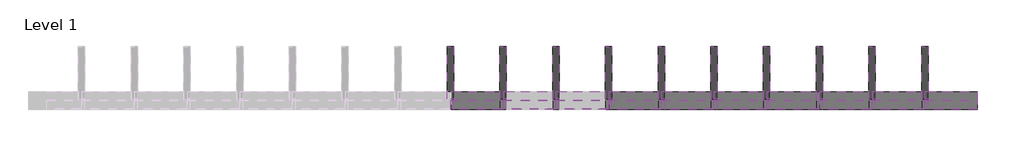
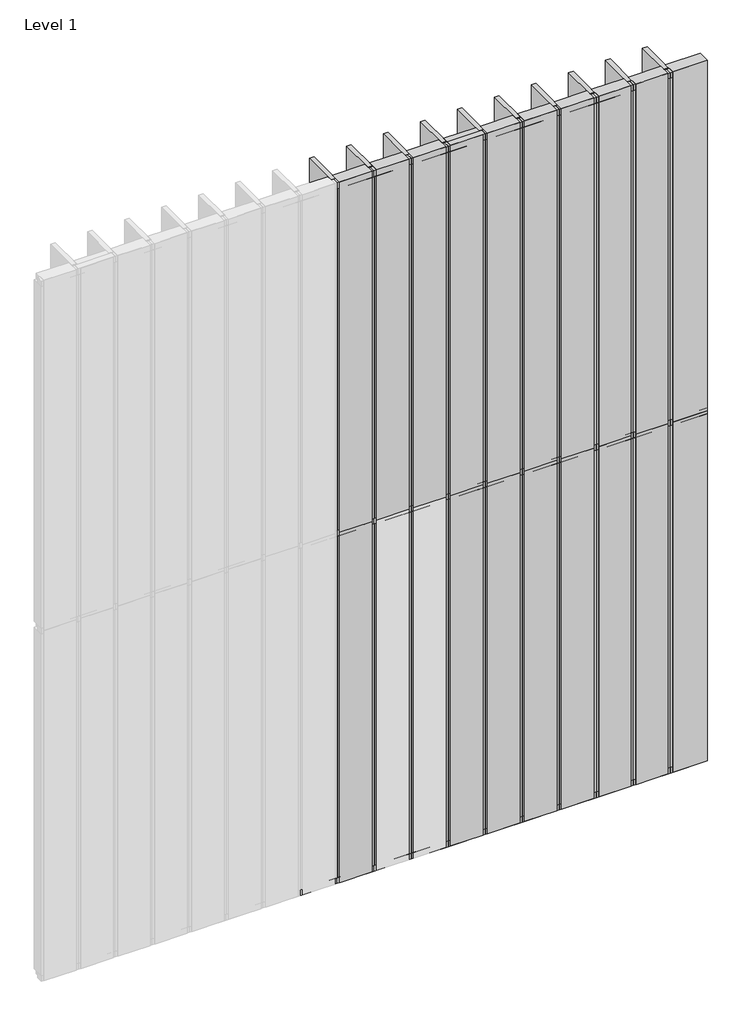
# One storey, part 2 of 2: 51 members, 38 plates.
"""IFC4 building model written with IfcOpenShell, lengths in millimetres."""

from ifc_helpers import new_model, si_unit, origin, place, context, project, spatial, transform, mapped, element, save
from components import rectangular_mullion_3524faa0, rectangular_mullion_d9db7a7c, rectangular_mullion_bcb65166, rectangular_mullion_906318ec, empty_system_panel_empty_ba3b3bea, empty_system_panel_empty_1e353cd9, empty_system_panel_empty_eacbfc0b

model = new_model("IFC4")

# Units and contexts
model_context = context("Model", 3, world=origin())
ifc_project = project(units=[si_unit("LENGTHUNIT", "METRE", prefix="MILLI")], contexts=[model_context])

# Site, building, storey
site = spatial("IfcSite", under=ifc_project)
building = spatial("IfcBuilding", under=site)
storey = spatial("IfcBuildingStorey", under=building, Name="Level 1", Elevation=0.0)

# Members
placement = place(None, origin())
rectangular_mullion_shape = rectangular_mullion_3524faa0(model_context)
element("IfcMember", 1, ObjectType="Rectangular Mullion : RSen_21_CWM_blade - cubic 300 - 0°_gen_duco projects", at=placement, inside=storey, context=model_context, shape_type="MappedRepresentation", body=[
    mapped(rectangular_mullion_shape, transform((5700.0, 3000.0, 0.0), x_axis=(-1.0, 0.0, 0.0), y_axis=(0.0, 1.0, 0.0), z_axis=(0.0, 0.0, -1.0))),
])
element("IfcMember", 2, ObjectType="Rectangular Mullion : RSen_21_CWM_blade - cubic 300 - 0°_gen_duco projects", at=placement, inside=storey, context=model_context, shape_type="MappedRepresentation", body=[
    mapped(rectangular_mullion_shape, transform((5400.0, 3000.0, 0.0), x_axis=(-1.0, 0.0, 0.0), y_axis=(0.0, 1.0, 0.0), z_axis=(0.0, 0.0, -1.0))),
])
element("IfcMember", 3, ObjectType="Rectangular Mullion : RSen_21_CWM_blade - cubic 300 - 0°_gen_duco projects", at=placement, inside=storey, context=model_context, shape_type="MappedRepresentation", body=[
    mapped(rectangular_mullion_shape, transform((5100.0, 3000.0, 0.0), x_axis=(-1.0, 0.0, 0.0), y_axis=(0.0, 1.0, 0.0), z_axis=(0.0, 0.0, -1.0))),
])
element("IfcMember", 4, ObjectType="Rectangular Mullion : RSen_21_CWM_blade - cubic 300 - 0°_gen_duco projects", at=placement, inside=storey, context=model_context, shape_type="MappedRepresentation", body=[
    mapped(rectangular_mullion_shape, transform((4800.0, 3000.0, 0.0), x_axis=(-1.0, 0.0, 0.0), y_axis=(0.0, 1.0, 0.0), z_axis=(0.0, 0.0, -1.0))),
])
element("IfcMember", 5, ObjectType="Rectangular Mullion : RSen_21_CWM_blade - cubic 300 - 0°_gen_duco projects", at=placement, inside=storey, context=model_context, shape_type="MappedRepresentation", body=[
    mapped(rectangular_mullion_shape, transform((4500.0, 3000.0, 0.0), x_axis=(-1.0, 0.0, 0.0), y_axis=(0.0, 1.0, 0.0), z_axis=(0.0, 0.0, -1.0))),
])
element("IfcMember", 6, ObjectType="Rectangular Mullion : RSen_21_CWM_blade - cubic 300 - 0°_gen_duco projects", at=placement, inside=storey, context=model_context, shape_type="MappedRepresentation", body=[
    mapped(rectangular_mullion_shape, transform((4200.0, 3000.0, 0.0), x_axis=(-1.0, 0.0, 0.0), y_axis=(0.0, 1.0, 0.0), z_axis=(0.0, 0.0, -1.0))),
])
element("IfcMember", 7, ObjectType="Rectangular Mullion : RSen_21_CWM_blade - cubic 300 - 0°_gen_duco projects", at=placement, inside=storey, context=model_context, shape_type="MappedRepresentation", body=[
    mapped(rectangular_mullion_shape, transform((3900.0, 3000.0, 0.0), x_axis=(-1.0, 0.0, 0.0), y_axis=(0.0, 1.0, 0.0), z_axis=(0.0, 0.0, -1.0))),
])
element("IfcMember", 8, ObjectType="Rectangular Mullion : RSen_21_CWM_blade - cubic 300 - 0°_gen_duco projects", at=placement, inside=storey, context=model_context, shape_type="MappedRepresentation", body=[
    mapped(rectangular_mullion_shape, transform((3600.0, 3000.0, 0.0), x_axis=(-1.0, 0.0, 0.0), y_axis=(0.0, 1.0, 0.0), z_axis=(0.0, 0.0, -1.0))),
])
element("IfcMember", 9, ObjectType="Rectangular Mullion : RSen_21_CWM_blade - cubic 300 - 0°_gen_duco projects", at=placement, inside=storey, context=model_context, shape_type="MappedRepresentation", body=[
    mapped(rectangular_mullion_shape, transform((3300.0, 3000.0, 0.0), x_axis=(-1.0, 0.0, 0.0), y_axis=(0.0, 1.0, 0.0), z_axis=(0.0, 0.0, -1.0))),
])
element("IfcMember", 10, ObjectType="Rectangular Mullion : RSen_21_CWM_blade - cubic 300 - 0°_gen_duco projects", at=placement, inside=storey, context=model_context, shape_type="MappedRepresentation", body=[
    mapped(rectangular_mullion_shape, transform((3000.0, 3000.0, 0.0), x_axis=(-1.0, 0.0, 0.0), y_axis=(0.0, 1.0, 0.0), z_axis=(0.0, 0.0, -1.0))),
])
element("IfcMember", 11, ObjectType="Rectangular Mullion : RSen_21_CWM_blade - cubic 300 - 0°_gen_duco projects", at=placement, inside=storey, context=model_context, shape_type="MappedRepresentation", body=[
    mapped(rectangular_mullion_shape, transform((5700.0, 3000.0, 3000.0), x_axis=(-1.0, 0.0, 0.0), y_axis=(0.0, 1.0, 0.0), z_axis=(0.0, 0.0, -1.0))),
])
element("IfcMember", 12, ObjectType="Rectangular Mullion : RSen_21_CWM_blade - cubic 300 - 0°_gen_duco projects", at=placement, inside=storey, context=model_context, shape_type="MappedRepresentation", body=[
    mapped(rectangular_mullion_shape, transform((5400.0, 3000.0, 3000.0), x_axis=(-1.0, 0.0, 0.0), y_axis=(0.0, 1.0, 0.0), z_axis=(0.0, 0.0, -1.0))),
])
element("IfcMember", 13, ObjectType="Rectangular Mullion : RSen_21_CWM_blade - cubic 300 - 0°_gen_duco projects", at=placement, inside=storey, context=model_context, shape_type="MappedRepresentation", body=[
    mapped(rectangular_mullion_shape, transform((5100.0, 3000.0, 3000.0), x_axis=(-1.0, 0.0, 0.0), y_axis=(0.0, 1.0, 0.0), z_axis=(0.0, 0.0, -1.0))),
])
element("IfcMember", 14, ObjectType="Rectangular Mullion : RSen_21_CWM_blade - cubic 300 - 0°_gen_duco projects", at=placement, inside=storey, context=model_context, shape_type="MappedRepresentation", body=[
    mapped(rectangular_mullion_shape, transform((4800.0, 3000.0, 3000.0), x_axis=(-1.0, 0.0, 0.0), y_axis=(0.0, 1.0, 0.0), z_axis=(0.0, 0.0, -1.0))),
])
element("IfcMember", 15, ObjectType="Rectangular Mullion : RSen_21_CWM_blade - cubic 300 - 0°_gen_duco projects", at=placement, inside=storey, context=model_context, shape_type="MappedRepresentation", body=[
    mapped(rectangular_mullion_shape, transform((4500.0, 3000.0, 3000.0), x_axis=(-1.0, 0.0, 0.0), y_axis=(0.0, 1.0, 0.0), z_axis=(0.0, 0.0, -1.0))),
])
element("IfcMember", 16, ObjectType="Rectangular Mullion : RSen_21_CWM_blade - cubic 300 - 0°_gen_duco projects", at=placement, inside=storey, context=model_context, shape_type="MappedRepresentation", body=[
    mapped(rectangular_mullion_shape, transform((4200.0, 3000.0, 3000.0), x_axis=(-1.0, 0.0, 0.0), y_axis=(0.0, 1.0, 0.0), z_axis=(0.0, 0.0, -1.0))),
])
element("IfcMember", 17, ObjectType="Rectangular Mullion : RSen_21_CWM_blade - cubic 300 - 0°_gen_duco projects", at=placement, inside=storey, context=model_context, shape_type="MappedRepresentation", body=[
    mapped(rectangular_mullion_shape, transform((3900.0, 3000.0, 3000.0), x_axis=(-1.0, 0.0, 0.0), y_axis=(0.0, 1.0, 0.0), z_axis=(0.0, 0.0, -1.0))),
])
element("IfcMember", 18, ObjectType="Rectangular Mullion : RSen_21_CWM_blade - cubic 300 - 0°_gen_duco projects", at=placement, inside=storey, context=model_context, shape_type="MappedRepresentation", body=[
    mapped(rectangular_mullion_shape, transform((3600.0, 3000.0, 3000.0), x_axis=(-1.0, 0.0, 0.0), y_axis=(0.0, 1.0, 0.0), z_axis=(0.0, 0.0, -1.0))),
])
element("IfcMember", 19, ObjectType="Rectangular Mullion : RSen_21_CWM_blade - cubic 300 - 0°_gen_duco projects", at=placement, inside=storey, context=model_context, shape_type="MappedRepresentation", body=[
    mapped(rectangular_mullion_shape, transform((3300.0, 3000.0, 3000.0), x_axis=(-1.0, 0.0, 0.0), y_axis=(0.0, 1.0, 0.0), z_axis=(0.0, 0.0, -1.0))),
])
element("IfcMember", 20, ObjectType="Rectangular Mullion : RSen_21_CWM_blade - cubic 300 - 0°_gen_duco projects", at=placement, inside=storey, context=model_context, shape_type="MappedRepresentation", body=[
    mapped(rectangular_mullion_shape, transform((3000.0, 3000.0, 3000.0), x_axis=(-1.0, 0.0, 0.0), y_axis=(0.0, 1.0, 0.0), z_axis=(0.0, 0.0, -1.0))),
])
rectangular_mullion_2_shape = rectangular_mullion_d9db7a7c(model_context)
element("IfcMember", 21, ObjectType="Rectangular Mullion : RSen_21_CWM_support profile 50x50 - right_gen_duco projects", at=placement, inside=storey, context=model_context, shape_type="MappedRepresentation", body=[
    mapped(rectangular_mullion_2_shape, transform((6000.0, 3000.0, 0.0), x_axis=(0.0, 0.0, -1.0), y_axis=(0.0, 1.0, 0.0), z_axis=(1.0, 0.0, 0.0))),
])
rectangular_mullion_3_shape = rectangular_mullion_bcb65166(model_context)
element("IfcMember", 22, ObjectType="Rectangular Mullion : RSen_21_CWM_support profile 50x50 - left_gen_duco projects", at=placement, inside=storey, context=model_context, shape_type="MappedRepresentation", body=[
    mapped(rectangular_mullion_3_shape, transform((5700.0, 3000.0, 6000.0), x_axis=(0.0, 0.0, 1.0), y_axis=(0.0, 1.0, 0.0), z_axis=(-1.0, 0.0, 0.0))),
])
element("IfcMember", 23, ObjectType="Rectangular Mullion : RSen_21_CWM_support profile 50x50 - left_gen_duco projects", at=placement, inside=storey, context=model_context, shape_type="MappedRepresentation", body=[
    mapped(rectangular_mullion_3_shape, transform((5400.0, 3000.0, 6000.0), x_axis=(0.0, 0.0, 1.0), y_axis=(0.0, 1.0, 0.0), z_axis=(-1.0, 0.0, 0.0))),
])
element("IfcMember", 24, ObjectType="Rectangular Mullion : RSen_21_CWM_support profile 50x50 - left_gen_duco projects", at=placement, inside=storey, context=model_context, shape_type="MappedRepresentation", body=[
    mapped(rectangular_mullion_3_shape, transform((5100.0, 3000.0, 6000.0), x_axis=(0.0, 0.0, 1.0), y_axis=(0.0, 1.0, 0.0), z_axis=(-1.0, 0.0, 0.0))),
])
element("IfcMember", 25, ObjectType="Rectangular Mullion : RSen_21_CWM_support profile 50x50 - left_gen_duco projects", at=placement, inside=storey, context=model_context, shape_type="MappedRepresentation", body=[
    mapped(rectangular_mullion_3_shape, transform((4800.0, 3000.0, 6000.0), x_axis=(0.0, 0.0, 1.0), y_axis=(0.0, 1.0, 0.0), z_axis=(-1.0, 0.0, 0.0))),
])
element("IfcMember", 26, ObjectType="Rectangular Mullion : RSen_21_CWM_support profile 50x50 - left_gen_duco projects", at=placement, inside=storey, context=model_context, shape_type="MappedRepresentation", body=[
    mapped(rectangular_mullion_3_shape, transform((4500.0, 3000.0, 6000.0), x_axis=(0.0, 0.0, 1.0), y_axis=(0.0, 1.0, 0.0), z_axis=(-1.0, 0.0, 0.0))),
])
element("IfcMember", 27, ObjectType="Rectangular Mullion : RSen_21_CWM_support profile 50x50 - left_gen_duco projects", at=placement, inside=storey, context=model_context, shape_type="MappedRepresentation", body=[
    mapped(rectangular_mullion_3_shape, transform((4200.0, 3000.0, 6000.0), x_axis=(0.0, 0.0, 1.0), y_axis=(0.0, 1.0, 0.0), z_axis=(-1.0, 0.0, 0.0))),
])
element("IfcMember", 28, ObjectType="Rectangular Mullion : RSen_21_CWM_support profile 50x50 - left_gen_duco projects", at=placement, inside=storey, context=model_context, shape_type="MappedRepresentation", body=[
    mapped(rectangular_mullion_3_shape, transform((3900.0, 3000.0, 6000.0), x_axis=(0.0, 0.0, 1.0), y_axis=(0.0, 1.0, 0.0), z_axis=(-1.0, 0.0, 0.0))),
])
element("IfcMember", 29, ObjectType="Rectangular Mullion : RSen_21_CWM_support profile 50x50 - left_gen_duco projects", at=placement, inside=storey, context=model_context, shape_type="MappedRepresentation", body=[
    mapped(rectangular_mullion_3_shape, transform((3600.0, 3000.0, 6000.0), x_axis=(0.0, 0.0, 1.0), y_axis=(0.0, 1.0, 0.0), z_axis=(-1.0, 0.0, 0.0))),
])
element("IfcMember", 30, ObjectType="Rectangular Mullion : RSen_21_CWM_support profile 50x50 - left_gen_duco projects", at=placement, inside=storey, context=model_context, shape_type="MappedRepresentation", body=[
    mapped(rectangular_mullion_3_shape, transform((3300.0, 3000.0, 6000.0), x_axis=(0.0, 0.0, 1.0), y_axis=(0.0, 1.0, 0.0), z_axis=(-1.0, 0.0, 0.0))),
])
element("IfcMember", 31, ObjectType="Rectangular Mullion : RSen_21_CWM_support profile 50x50 - left_gen_duco projects", at=placement, inside=storey, context=model_context, shape_type="MappedRepresentation", body=[
    mapped(rectangular_mullion_3_shape, transform((3000.0, 3000.0, 6000.0), x_axis=(0.0, 0.0, 1.0), y_axis=(0.0, 1.0, 0.0), z_axis=(-1.0, 0.0, 0.0))),
])
element("IfcMember", 32, ObjectType="Rectangular Mullion : RSen_21_CWM_support profile 50x50 - right_gen_duco projects", at=placement, inside=storey, context=model_context, shape_type="MappedRepresentation", body=[
    mapped(rectangular_mullion_2_shape, transform((5700.0, 3000.0, 0.0), x_axis=(0.0, 0.0, -1.0), y_axis=(0.0, 1.0, 0.0), z_axis=(1.0, 0.0, 0.0))),
])
element("IfcMember", 33, ObjectType="Rectangular Mullion : RSen_21_CWM_support profile 50x50 - right_gen_duco projects", at=placement, inside=storey, context=model_context, shape_type="MappedRepresentation", body=[
    mapped(rectangular_mullion_2_shape, transform((5400.0, 3000.0, 0.0), x_axis=(0.0, 0.0, -1.0), y_axis=(0.0, 1.0, 0.0), z_axis=(1.0, 0.0, 0.0))),
])
element("IfcMember", 34, ObjectType="Rectangular Mullion : RSen_21_CWM_support profile 50x50 - right_gen_duco projects", at=placement, inside=storey, context=model_context, shape_type="MappedRepresentation", body=[
    mapped(rectangular_mullion_2_shape, transform((5100.0, 3000.0, 0.0), x_axis=(0.0, 0.0, -1.0), y_axis=(0.0, 1.0, 0.0), z_axis=(1.0, 0.0, 0.0))),
])
element("IfcMember", 35, ObjectType="Rectangular Mullion : RSen_21_CWM_support profile 50x50 - right_gen_duco projects", at=placement, inside=storey, context=model_context, shape_type="MappedRepresentation", body=[
    mapped(rectangular_mullion_2_shape, transform((4800.0, 3000.0, 0.0), x_axis=(0.0, 0.0, -1.0), y_axis=(0.0, 1.0, 0.0), z_axis=(1.0, 0.0, 0.0))),
])
element("IfcMember", 36, ObjectType="Rectangular Mullion : RSen_21_CWM_support profile 50x50 - right_gen_duco projects", at=placement, inside=storey, context=model_context, shape_type="MappedRepresentation", body=[
    mapped(rectangular_mullion_2_shape, transform((4500.0, 3000.0, 0.0), x_axis=(0.0, 0.0, -1.0), y_axis=(0.0, 1.0, 0.0), z_axis=(1.0, 0.0, 0.0))),
])
element("IfcMember", 37, ObjectType="Rectangular Mullion : RSen_21_CWM_support profile 50x50 - right_gen_duco projects", at=placement, inside=storey, context=model_context, shape_type="MappedRepresentation", body=[
    mapped(rectangular_mullion_2_shape, transform((4200.0, 3000.0, 0.0), x_axis=(0.0, 0.0, -1.0), y_axis=(0.0, 1.0, 0.0), z_axis=(1.0, 0.0, 0.0))),
])
element("IfcMember", 38, ObjectType="Rectangular Mullion : RSen_21_CWM_support profile 50x50 - right_gen_duco projects", at=placement, inside=storey, context=model_context, shape_type="MappedRepresentation", body=[
    mapped(rectangular_mullion_2_shape, transform((3900.0, 3000.0, 0.0), x_axis=(0.0, 0.0, -1.0), y_axis=(0.0, 1.0, 0.0), z_axis=(1.0, 0.0, 0.0))),
])
element("IfcMember", 39, ObjectType="Rectangular Mullion : RSen_21_CWM_support profile 50x50 - right_gen_duco projects", at=placement, inside=storey, context=model_context, shape_type="MappedRepresentation", body=[
    mapped(rectangular_mullion_2_shape, transform((3600.0, 3000.0, 0.0), x_axis=(0.0, 0.0, -1.0), y_axis=(0.0, 1.0, 0.0), z_axis=(1.0, 0.0, 0.0))),
])
element("IfcMember", 40, ObjectType="Rectangular Mullion : RSen_21_CWM_support profile 50x50 - right_gen_duco projects", at=placement, inside=storey, context=model_context, shape_type="MappedRepresentation", body=[
    mapped(rectangular_mullion_2_shape, transform((3300.0, 3000.0, 0.0), x_axis=(0.0, 0.0, -1.0), y_axis=(0.0, 1.0, 0.0), z_axis=(1.0, 0.0, 0.0))),
])
element("IfcMember", 41, ObjectType="Rectangular Mullion : RSen_21_CWM_support profile 50x50 - right_gen_duco projects", at=placement, inside=storey, context=model_context, shape_type="MappedRepresentation", body=[
    mapped(rectangular_mullion_2_shape, transform((3000.0, 3000.0, 0.0), x_axis=(0.0, 0.0, -1.0), y_axis=(0.0, 1.0, 0.0), z_axis=(1.0, 0.0, 0.0))),
])
rectangular_mullion_4_shape = rectangular_mullion_906318ec(model_context)
element("IfcMember", 42, ObjectType="Rectangular Mullion : RSen_21_CWM_support profile 50x50_gen_duco projects", at=placement, inside=storey, context=model_context, shape_type="MappedRepresentation", body=[
    mapped(rectangular_mullion_4_shape, transform((5700.0, 3000.0, 3000.0), x_axis=(0.0, 0.0, 1.0), y_axis=(0.0, 1.0, 0.0), z_axis=(-1.0, 0.0, 0.0))),
])
element("IfcMember", 43, ObjectType="Rectangular Mullion : RSen_21_CWM_support profile 50x50_gen_duco projects", at=placement, inside=storey, context=model_context, shape_type="MappedRepresentation", body=[
    mapped(rectangular_mullion_4_shape, transform((5400.0, 3000.0, 3000.0), x_axis=(0.0, 0.0, 1.0), y_axis=(0.0, 1.0, 0.0), z_axis=(-1.0, 0.0, 0.0))),
])
element("IfcMember", 44, ObjectType="Rectangular Mullion : RSen_21_CWM_support profile 50x50_gen_duco projects", at=placement, inside=storey, context=model_context, shape_type="MappedRepresentation", body=[
    mapped(rectangular_mullion_4_shape, transform((5100.0, 3000.0, 3000.0), x_axis=(0.0, 0.0, 1.0), y_axis=(0.0, 1.0, 0.0), z_axis=(-1.0, 0.0, 0.0))),
])
element("IfcMember", 45, ObjectType="Rectangular Mullion : RSen_21_CWM_support profile 50x50_gen_duco projects", at=placement, inside=storey, context=model_context, shape_type="MappedRepresentation", body=[
    mapped(rectangular_mullion_4_shape, transform((4800.0, 3000.0, 3000.0), x_axis=(0.0, 0.0, 1.0), y_axis=(0.0, 1.0, 0.0), z_axis=(-1.0, 0.0, 0.0))),
])
element("IfcMember", 46, ObjectType="Rectangular Mullion : RSen_21_CWM_support profile 50x50_gen_duco projects", at=placement, inside=storey, context=model_context, shape_type="MappedRepresentation", body=[
    mapped(rectangular_mullion_4_shape, transform((4500.0, 3000.0, 3000.0), x_axis=(0.0, 0.0, 1.0), y_axis=(0.0, 1.0, 0.0), z_axis=(-1.0, 0.0, 0.0))),
])
element("IfcMember", 47, ObjectType="Rectangular Mullion : RSen_21_CWM_support profile 50x50_gen_duco projects", at=placement, inside=storey, context=model_context, shape_type="MappedRepresentation", body=[
    mapped(rectangular_mullion_4_shape, transform((4200.0, 3000.0, 3000.0), x_axis=(0.0, 0.0, 1.0), y_axis=(0.0, 1.0, 0.0), z_axis=(-1.0, 0.0, 0.0))),
])
element("IfcMember", 48, ObjectType="Rectangular Mullion : RSen_21_CWM_support profile 50x50_gen_duco projects", at=placement, inside=storey, context=model_context, shape_type="MappedRepresentation", body=[
    mapped(rectangular_mullion_4_shape, transform((3900.0, 3000.0, 3000.0), x_axis=(0.0, 0.0, 1.0), y_axis=(0.0, 1.0, 0.0), z_axis=(-1.0, 0.0, 0.0))),
])
element("IfcMember", 49, ObjectType="Rectangular Mullion : RSen_21_CWM_support profile 50x50_gen_duco projects", at=placement, inside=storey, context=model_context, shape_type="MappedRepresentation", body=[
    mapped(rectangular_mullion_4_shape, transform((3600.0, 3000.0, 3000.0), x_axis=(0.0, 0.0, 1.0), y_axis=(0.0, 1.0, 0.0), z_axis=(-1.0, 0.0, 0.0))),
])
element("IfcMember", 50, ObjectType="Rectangular Mullion : RSen_21_CWM_support profile 50x50_gen_duco projects", at=placement, inside=storey, context=model_context, shape_type="MappedRepresentation", body=[
    mapped(rectangular_mullion_4_shape, transform((3300.0, 3000.0, 3000.0), x_axis=(0.0, 0.0, 1.0), y_axis=(0.0, 1.0, 0.0), z_axis=(-1.0, 0.0, 0.0))),
])
element("IfcMember", 51, ObjectType="Rectangular Mullion : RSen_21_CWM_support profile 50x50_gen_duco projects", at=placement, inside=storey, context=model_context, shape_type="MappedRepresentation", body=[
    mapped(rectangular_mullion_4_shape, transform((3000.0, 3000.0, 3000.0), x_axis=(0.0, 0.0, 1.0), y_axis=(0.0, 1.0, 0.0), z_axis=(-1.0, 0.0, 0.0))),
])

# Plates
empty_system_panel_empty_shape = empty_system_panel_empty_ba3b3bea(model_context)
element("IfcPlate", 52, ObjectType="Empty System Panel : Empty", at=placement, inside=storey, context=model_context, shape_type="MappedRepresentation", body=[
    mapped(empty_system_panel_empty_shape, transform((5859.25, 3000.0, 0.0), x_axis=(-1.0, 0.0, 0.0), y_axis=(0.0, -1.0, 0.0), z_axis=(0.0, 0.0, 1.0))),
])
element("IfcPlate", 53, ObjectType="Empty System Panel : Empty", at=placement, inside=storey, context=model_context, shape_type="MappedRepresentation", body=[
    mapped(empty_system_panel_empty_shape, transform((5859.25, 3000.0, 3000.0), x_axis=(-1.0, 0.0, 0.0), y_axis=(0.0, -1.0, 0.0), z_axis=(0.0, 0.0, 1.0))),
])
empty_system_panel_empty_2_shape = empty_system_panel_empty_1e353cd9(model_context)
element("IfcPlate", 54, ObjectType="Empty System Panel : Empty", at=placement, inside=storey, context=model_context, shape_type="MappedRepresentation", body=[
    mapped(empty_system_panel_empty_2_shape, transform((5550.0, 3000.0, 0.0), x_axis=(-1.0, 0.0, 0.0), y_axis=(0.0, -1.0, 0.0), z_axis=(0.0, 0.0, 1.0))),
])
element("IfcPlate", 55, ObjectType="Empty System Panel : Empty", at=placement, inside=storey, context=model_context, shape_type="MappedRepresentation", body=[
    mapped(empty_system_panel_empty_2_shape, transform((5250.0, 3000.0, 0.0), x_axis=(-1.0, 0.0, 0.0), y_axis=(0.0, -1.0, 0.0), z_axis=(0.0, 0.0, 1.0))),
])
element("IfcPlate", 56, ObjectType="Empty System Panel : Empty", at=placement, inside=storey, context=model_context, shape_type="MappedRepresentation", body=[
    mapped(empty_system_panel_empty_2_shape, transform((4950.0, 3000.0, 0.0), x_axis=(-1.0, 0.0, 0.0), y_axis=(0.0, -1.0, 0.0), z_axis=(0.0, 0.0, 1.0))),
])
element("IfcPlate", 57, ObjectType="Empty System Panel : Empty", at=placement, inside=storey, context=model_context, shape_type="MappedRepresentation", body=[
    mapped(empty_system_panel_empty_2_shape, transform((4650.0, 3000.0, 0.0), x_axis=(-1.0, 0.0, 0.0), y_axis=(0.0, -1.0, 0.0), z_axis=(0.0, 0.0, 1.0))),
])
element("IfcPlate", 58, ObjectType="Empty System Panel : Empty", at=placement, inside=storey, context=model_context, shape_type="MappedRepresentation", body=[
    mapped(empty_system_panel_empty_2_shape, transform((4350.0, 3000.0, 0.0), x_axis=(-1.0, 0.0, 0.0), y_axis=(0.0, -1.0, 0.0), z_axis=(0.0, 0.0, 1.0))),
])
element("IfcPlate", 59, ObjectType="Empty System Panel : Empty", at=placement, inside=storey, context=model_context, shape_type="MappedRepresentation", body=[
    mapped(empty_system_panel_empty_2_shape, transform((4050.0, 3000.0, 0.0), x_axis=(-1.0, 0.0, 0.0), y_axis=(0.0, -1.0, 0.0), z_axis=(0.0, 0.0, 1.0))),
])
element("IfcPlate", 60, ObjectType="Empty System Panel : Empty", at=placement, inside=storey, context=model_context, shape_type="MappedRepresentation", body=[
    mapped(empty_system_panel_empty_2_shape, transform((3150.0, 3000.0, 0.0), x_axis=(-1.0, 0.0, 0.0), y_axis=(0.0, -1.0, 0.0), z_axis=(0.0, 0.0, 1.0))),
])
element("IfcPlate", 61, ObjectType="Empty System Panel : Empty", at=placement, inside=storey, context=model_context, shape_type="MappedRepresentation", body=[
    mapped(empty_system_panel_empty_2_shape, transform((5550.0, 3000.0, 3000.0), x_axis=(-1.0, 0.0, 0.0), y_axis=(0.0, -1.0, 0.0), z_axis=(0.0, 0.0, 1.0))),
])
element("IfcPlate", 62, ObjectType="Empty System Panel : Empty", at=placement, inside=storey, context=model_context, shape_type="MappedRepresentation", body=[
    mapped(empty_system_panel_empty_2_shape, transform((5250.0, 3000.0, 3000.0), x_axis=(-1.0, 0.0, 0.0), y_axis=(0.0, -1.0, 0.0), z_axis=(0.0, 0.0, 1.0))),
])
element("IfcPlate", 63, ObjectType="Empty System Panel : Empty", at=placement, inside=storey, context=model_context, shape_type="MappedRepresentation", body=[
    mapped(empty_system_panel_empty_2_shape, transform((4950.0, 3000.0, 3000.0), x_axis=(-1.0, 0.0, 0.0), y_axis=(0.0, -1.0, 0.0), z_axis=(0.0, 0.0, 1.0))),
])
element("IfcPlate", 64, ObjectType="Empty System Panel : Empty", at=placement, inside=storey, context=model_context, shape_type="MappedRepresentation", body=[
    mapped(empty_system_panel_empty_2_shape, transform((4650.0, 3000.0, 3000.0), x_axis=(-1.0, 0.0, 0.0), y_axis=(0.0, -1.0, 0.0), z_axis=(0.0, 0.0, 1.0))),
])
element("IfcPlate", 65, ObjectType="Empty System Panel : Empty", at=placement, inside=storey, context=model_context, shape_type="MappedRepresentation", body=[
    mapped(empty_system_panel_empty_2_shape, transform((4350.0, 3000.0, 3000.0), x_axis=(-1.0, 0.0, 0.0), y_axis=(0.0, -1.0, 0.0), z_axis=(0.0, 0.0, 1.0))),
])
element("IfcPlate", 66, ObjectType="Empty System Panel : Empty", at=placement, inside=storey, context=model_context, shape_type="MappedRepresentation", body=[
    mapped(empty_system_panel_empty_2_shape, transform((4050.0, 3000.0, 3000.0), x_axis=(-1.0, 0.0, 0.0), y_axis=(0.0, -1.0, 0.0), z_axis=(0.0, 0.0, 1.0))),
])
element("IfcPlate", 67, ObjectType="Empty System Panel : Empty", at=placement, inside=storey, context=model_context, shape_type="MappedRepresentation", body=[
    mapped(empty_system_panel_empty_2_shape, transform((3750.0, 3000.0, 3000.0), x_axis=(-1.0, 0.0, 0.0), y_axis=(0.0, -1.0, 0.0), z_axis=(0.0, 0.0, 1.0))),
])
element("IfcPlate", 68, ObjectType="Empty System Panel : Empty", at=placement, inside=storey, context=model_context, shape_type="MappedRepresentation", body=[
    mapped(empty_system_panel_empty_2_shape, transform((3450.0, 3000.0, 3000.0), x_axis=(-1.0, 0.0, 0.0), y_axis=(0.0, -1.0, 0.0), z_axis=(0.0, 0.0, 1.0))),
])
element("IfcPlate", 69, ObjectType="Empty System Panel : Empty", at=placement, inside=storey, context=model_context, shape_type="MappedRepresentation", body=[
    mapped(empty_system_panel_empty_2_shape, transform((3150.0, 3000.0, 3000.0), x_axis=(-1.0, 0.0, 0.0), y_axis=(0.0, -1.0, 0.0), z_axis=(0.0, 0.0, 1.0))),
])
empty_system_panel_empty_3_shape = empty_system_panel_empty_eacbfc0b(model_context)
element("IfcPlate", 70, ObjectType="Empty System Panel : Empty", at=placement, inside=storey, context=model_context, shape_type="MappedRepresentation", body=[
    mapped(empty_system_panel_empty_3_shape, transform((5850.0, 3000.0, 50.0), x_axis=(-1.0, 0.0, 0.0), y_axis=(0.0, -1.0, 0.0), z_axis=(0.0, 0.0, 1.0))),
])
element("IfcPlate", 71, ObjectType="Empty System Panel : Empty", at=placement, inside=storey, context=model_context, shape_type="MappedRepresentation", body=[
    mapped(empty_system_panel_empty_3_shape, transform((5550.0, 3000.0, 50.0), x_axis=(-1.0, 0.0, 0.0), y_axis=(0.0, -1.0, 0.0), z_axis=(0.0, 0.0, 1.0))),
])
element("IfcPlate", 72, ObjectType="Empty System Panel : Empty", at=placement, inside=storey, context=model_context, shape_type="MappedRepresentation", body=[
    mapped(empty_system_panel_empty_3_shape, transform((5250.0, 3000.0, 50.0), x_axis=(-1.0, 0.0, 0.0), y_axis=(0.0, -1.0, 0.0), z_axis=(0.0, 0.0, 1.0))),
])
element("IfcPlate", 73, ObjectType="Empty System Panel : Empty", at=placement, inside=storey, context=model_context, shape_type="MappedRepresentation", body=[
    mapped(empty_system_panel_empty_3_shape, transform((4950.0, 3000.0, 50.0), x_axis=(-1.0, 0.0, 0.0), y_axis=(0.0, -1.0, 0.0), z_axis=(0.0, 0.0, 1.0))),
])
element("IfcPlate", 74, ObjectType="Empty System Panel : Empty", at=placement, inside=storey, context=model_context, shape_type="MappedRepresentation", body=[
    mapped(empty_system_panel_empty_3_shape, transform((4650.0, 3000.0, 50.0), x_axis=(-1.0, 0.0, 0.0), y_axis=(0.0, -1.0, 0.0), z_axis=(0.0, 0.0, 1.0))),
])
element("IfcPlate", 75, ObjectType="Empty System Panel : Empty", at=placement, inside=storey, context=model_context, shape_type="MappedRepresentation", body=[
    mapped(empty_system_panel_empty_3_shape, transform((4350.0, 3000.0, 50.0), x_axis=(-1.0, 0.0, 0.0), y_axis=(0.0, -1.0, 0.0), z_axis=(0.0, 0.0, 1.0))),
])
element("IfcPlate", 76, ObjectType="Empty System Panel : Empty", at=placement, inside=storey, context=model_context, shape_type="MappedRepresentation", body=[
    mapped(empty_system_panel_empty_3_shape, transform((4050.0, 3000.0, 50.0), x_axis=(-1.0, 0.0, 0.0), y_axis=(0.0, -1.0, 0.0), z_axis=(0.0, 0.0, 1.0))),
])
element("IfcPlate", 77, ObjectType="Empty System Panel : Empty", at=placement, inside=storey, context=model_context, shape_type="MappedRepresentation", body=[
    mapped(empty_system_panel_empty_3_shape, transform((3750.0, 3000.0, 50.0), x_axis=(-1.0, 0.0, 0.0), y_axis=(0.0, -1.0, 0.0), z_axis=(0.0, 0.0, 1.0))),
])
element("IfcPlate", 78, ObjectType="Empty System Panel : Empty", at=placement, inside=storey, context=model_context, shape_type="MappedRepresentation", body=[
    mapped(empty_system_panel_empty_3_shape, transform((3450.0, 3000.0, 50.0), x_axis=(-1.0, 0.0, 0.0), y_axis=(0.0, -1.0, 0.0), z_axis=(0.0, 0.0, 1.0))),
])
element("IfcPlate", 79, ObjectType="Empty System Panel : Empty", at=placement, inside=storey, context=model_context, shape_type="MappedRepresentation", body=[
    mapped(empty_system_panel_empty_3_shape, transform((3150.0, 3000.0, 50.0), x_axis=(-1.0, 0.0, 0.0), y_axis=(0.0, -1.0, 0.0), z_axis=(0.0, 0.0, 1.0))),
])
element("IfcPlate", 80, ObjectType="Empty System Panel : Empty", at=placement, inside=storey, context=model_context, shape_type="MappedRepresentation", body=[
    mapped(empty_system_panel_empty_3_shape, transform((5850.0, 3000.0, 3025.0), x_axis=(-1.0, 0.0, 0.0), y_axis=(0.0, -1.0, 0.0), z_axis=(0.0, 0.0, 1.0))),
])
element("IfcPlate", 81, ObjectType="Empty System Panel : Empty", at=placement, inside=storey, context=model_context, shape_type="MappedRepresentation", body=[
    mapped(empty_system_panel_empty_3_shape, transform((5550.0, 3000.0, 3025.0), x_axis=(-1.0, 0.0, 0.0), y_axis=(0.0, -1.0, 0.0), z_axis=(0.0, 0.0, 1.0))),
])
element("IfcPlate", 82, ObjectType="Empty System Panel : Empty", at=placement, inside=storey, context=model_context, shape_type="MappedRepresentation", body=[
    mapped(empty_system_panel_empty_3_shape, transform((5250.0, 3000.0, 3025.0), x_axis=(-1.0, 0.0, 0.0), y_axis=(0.0, -1.0, 0.0), z_axis=(0.0, 0.0, 1.0))),
])
element("IfcPlate", 83, ObjectType="Empty System Panel : Empty", at=placement, inside=storey, context=model_context, shape_type="MappedRepresentation", body=[
    mapped(empty_system_panel_empty_3_shape, transform((4950.0, 3000.0, 3025.0), x_axis=(-1.0, 0.0, 0.0), y_axis=(0.0, -1.0, 0.0), z_axis=(0.0, 0.0, 1.0))),
])
element("IfcPlate", 84, ObjectType="Empty System Panel : Empty", at=placement, inside=storey, context=model_context, shape_type="MappedRepresentation", body=[
    mapped(empty_system_panel_empty_3_shape, transform((4650.0, 3000.0, 3025.0), x_axis=(-1.0, 0.0, 0.0), y_axis=(0.0, -1.0, 0.0), z_axis=(0.0, 0.0, 1.0))),
])
element("IfcPlate", 85, ObjectType="Empty System Panel : Empty", at=placement, inside=storey, context=model_context, shape_type="MappedRepresentation", body=[
    mapped(empty_system_panel_empty_3_shape, transform((4350.0, 3000.0, 3025.0), x_axis=(-1.0, 0.0, 0.0), y_axis=(0.0, -1.0, 0.0), z_axis=(0.0, 0.0, 1.0))),
])
element("IfcPlate", 86, ObjectType="Empty System Panel : Empty", at=placement, inside=storey, context=model_context, shape_type="MappedRepresentation", body=[
    mapped(empty_system_panel_empty_3_shape, transform((4050.0, 3000.0, 3025.0), x_axis=(-1.0, 0.0, 0.0), y_axis=(0.0, -1.0, 0.0), z_axis=(0.0, 0.0, 1.0))),
])
element("IfcPlate", 87, ObjectType="Empty System Panel : Empty", at=placement, inside=storey, context=model_context, shape_type="MappedRepresentation", body=[
    mapped(empty_system_panel_empty_3_shape, transform((3750.0, 3000.0, 3025.0), x_axis=(-1.0, 0.0, 0.0), y_axis=(0.0, -1.0, 0.0), z_axis=(0.0, 0.0, 1.0))),
])
element("IfcPlate", 88, ObjectType="Empty System Panel : Empty", at=placement, inside=storey, context=model_context, shape_type="MappedRepresentation", body=[
    mapped(empty_system_panel_empty_3_shape, transform((3450.0, 3000.0, 3025.0), x_axis=(-1.0, 0.0, 0.0), y_axis=(0.0, -1.0, 0.0), z_axis=(0.0, 0.0, 1.0))),
])
element("IfcPlate", 89, ObjectType="Empty System Panel : Empty", at=placement, inside=storey, context=model_context, shape_type="MappedRepresentation", body=[
    mapped(empty_system_panel_empty_3_shape, transform((3150.0, 3000.0, 3025.0), x_axis=(-1.0, 0.0, 0.0), y_axis=(0.0, -1.0, 0.0), z_axis=(0.0, 0.0, 1.0))),
])

save(model, "model.ifc")
